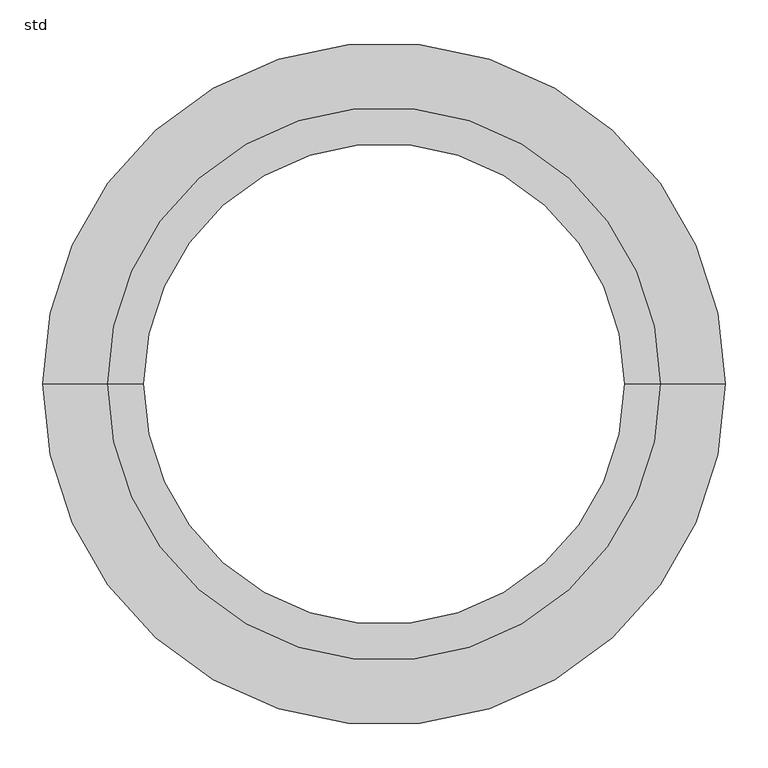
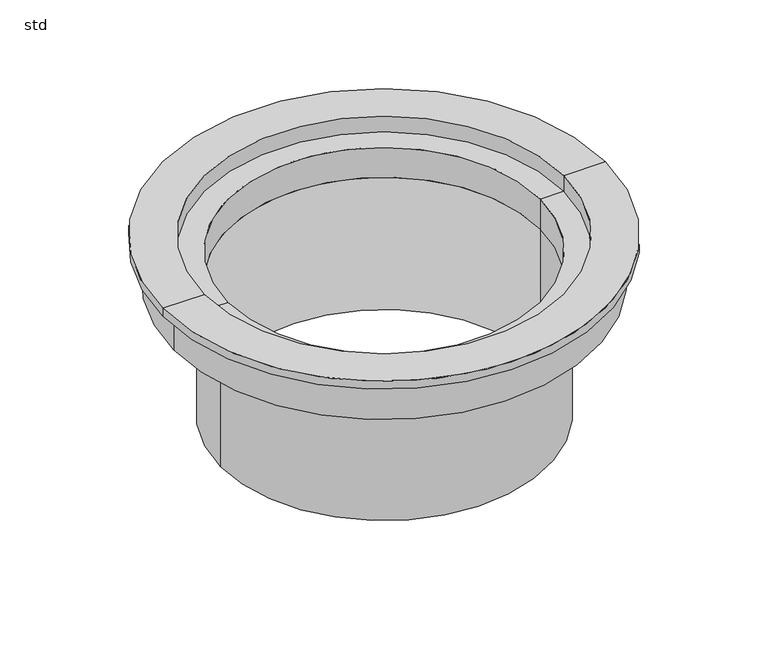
"""IFC4 building model written with IfcOpenShell, lengths in millimetres: pipe fitting geometry, Z_PIF_UN_Q-Bic_Plus_Telescopic_Frame_Wavin_(nested) : std."""

from ifc_helpers import new_model, si_unit, point, frame, origin, origin_with_axes, origin_2d, place, context, project, spatial, polyline, circle_curve, trimmed, segment, composite_curve, outline, extrude, source, transform, mapped, element, save
from ifc_brep_helpers import plane_surface, cylinder_surface, revolved_surface, advanced_brep


def std_4fffe7a8(model_context):
    return source(origin(), model_context, "Body", "SolidModel", [
        advanced_brep(
        [(-380.0, 0.0, -15.0), (380.0, 0.0, -15.0), (380.0, 0.0, -87.0), (-380.0, 0.0, -87.0), (-400.0, 0.0, -15.0), (400.0, 0.0, -15.0), (-400.0, 0.0, 0.0), (400.0, 0.0, 0.0), (-324.5, 0.0, 0.0), (324.5, 0.0, 0.0), (-324.5, 0.0, -30.0), (324.5, 0.0, -30.0), (-282.0, 0.0, -30.0), (282.0, 0.0, -30.0), (-282.0, 0.0, -87.0), (282.0, 0.0, -87.0)],
        [
            (0, 1, circle_curve(frame((0.0, 0.0, -15.0), z_axis=(0.0, 0.0, -1.0), x_axis=(1.0, 0.0, 0.0)), 380.0)),
            (1, 2),
            (2, 3, circle_curve(frame((0.0, 0.0, -87.0), z_axis=(0.0, 0.0, 1.0), x_axis=(1.0, 0.0, 0.0)), 380.0)),
            (3, 0),
            (1, 0, circle_curve(frame((0.0, 0.0, -15.0), z_axis=(0.0, 0.0, -1.0), x_axis=(1.0, 0.0, 0.0)), 380.0)),
            (3, 2, circle_curve(frame((0.0, 0.0, -87.0), z_axis=(0.0, 0.0, 1.0), x_axis=(1.0, 0.0, 0.0)), 380.0)),
            (4, 5, circle_curve(frame((0.0, 0.0, -15.0), z_axis=(0.0, 0.0, -1.0), x_axis=(1.0, 0.0, 0.0)), 400.0)),
            (5, 1),
            (0, 4),
            (5, 4, circle_curve(frame((0.0, 0.0, -15.0), z_axis=(0.0, 0.0, -1.0), x_axis=(1.0, 0.0, 0.0)), 400.0)),
            (6, 7, circle_curve(frame((0.0, 0.0, 0.0), z_axis=(0.0, 0.0, -1.0), x_axis=(1.0, 0.0, 0.0)), 400.0)),
            (7, 5),
            (4, 6),
            (7, 6, circle_curve(frame((0.0, 0.0, 0.0), z_axis=(0.0, 0.0, -1.0), x_axis=(1.0, 0.0, 0.0)), 400.0)),
            (8, 9, circle_curve(frame((0.0, 0.0, 0.0), z_axis=(0.0, 0.0, -1.0), x_axis=(1.0, 0.0, 0.0)), 324.5)),
            (9, 7),
            (6, 8),
            (9, 8, circle_curve(frame((0.0, 0.0, 0.0), z_axis=(0.0, 0.0, -1.0), x_axis=(1.0, 0.0, 0.0)), 324.5)),
            (10, 11, circle_curve(frame((0.0, 0.0, -30.0), z_axis=(0.0, 0.0, -1.0), x_axis=(1.0, 0.0, 0.0)), 324.5)),
            (11, 9),
            (8, 10),
            (11, 10, circle_curve(frame((0.0, 0.0, -30.0), z_axis=(0.0, 0.0, -1.0), x_axis=(1.0, 0.0, 0.0)), 324.5)),
            (12, 13, circle_curve(frame((0.0, 0.0, -30.0), z_axis=(0.0, 0.0, -1.0), x_axis=(1.0, 0.0, 0.0)), 282.0)),
            (13, 11),
            (10, 12),
            (13, 12, circle_curve(frame((0.0, 0.0, -30.0), z_axis=(0.0, 0.0, -1.0), x_axis=(1.0, 0.0, 0.0)), 282.0)),
            (14, 15, circle_curve(frame((0.0, 0.0, -87.0), z_axis=(0.0, 0.0, -1.0), x_axis=(1.0, 0.0, 0.0)), 282.0)),
            (15, 13),
            (12, 14),
            (15, 14, circle_curve(frame((0.0, 0.0, -87.0), z_axis=(0.0, 0.0, -1.0), x_axis=(1.0, 0.0, 0.0)), 282.0)),
            (2, 15),
            (14, 3),
        ],
        [
            cylinder_surface(frame((0.0, 0.0, -433.0), z_axis=(0.0, 0.0, 1.0), x_axis=(1.0, 0.0, 0.0)), 380.0),
            plane_surface(frame((0.0, 0.0, -15.0), z_axis=(0.0, 0.0, -1.0), x_axis=(1.0, 0.0, 0.0))),
            cylinder_surface(frame((0.0, 0.0, -433.0), z_axis=(0.0, 0.0, 1.0), x_axis=(1.0, 0.0, 0.0)), 400.0),
            plane_surface(origin_with_axes()),
            revolved_surface(polyline([(324.5, 0.0, 0.0), (324.5, 0.0, -30.0)]), (0.0, 0.0, -433.0), (0.0, 0.0, 1.0)),
            plane_surface(frame((0.0, 0.0, -30.0), z_axis=(0.0, 0.0, 1.0), x_axis=(1.0, 0.0, 0.0))),
            revolved_surface(polyline([(282.0, 0.0, -30.0), (282.0, 0.0, -87.0)]), (0.0, 0.0, -433.0), (0.0, 0.0, 1.0)),
            plane_surface(frame((0.0, 0.0, -87.0), z_axis=(0.0, 0.0, -1.0), x_axis=(1.0, 0.0, 0.0))),
        ],
        [
            (0, [[1, 2, 3, 4]]),
            (0, [[5, -4, 6, -2]]),
            (1, [[7, 8, -1, 9]]),
            (1, [[10, -9, -5, -8]]),
            (2, [[11, 12, -7, 13]]),
            (2, [[14, -13, -10, -12]]),
            (3, [[15, 16, -11, 17]]),
            (3, [[18, -17, -14, -16]]),
            (4, [[19, 20, -15, 21]]),
            (4, [[22, -21, -18, -20]]),
            (5, [[23, 24, -19, 25]]),
            (5, [[26, -25, -22, -24]]),
            (6, [[27, 28, -23, 29]]),
            (6, [[30, -29, -26, -28]]),
            (7, [[-3, 31, -27, 32]]),
            (7, [[-6, -32, -30, -31]]),
        ],
    ),
        extrude(outline(composite_curve([segment(trimmed(circle_curve(origin_2d(), 295.0), [point((-295.0, 0.0))], [point((295.0, 0.0))], False, "CARTESIAN"), True, "CONTINUOUS"), segment(trimmed(circle_curve(origin_2d(), 295.0), [point((295.0, 0.0))], [point((-295.0, 0.0))], False, "CARTESIAN"), True, "CONTINUOUS")], self_intersect=False), holes=[composite_curve([segment(trimmed(circle_curve(origin_2d(), 282.0), [point((-282.0, 0.0))], [point((282.0, 0.0))], True, "CARTESIAN"), True, "CONTINUOUS"), segment(trimmed(circle_curve(origin_2d(), 282.0), [point((282.0, 0.0))], [point((-282.0, 0.0))], True, "CARTESIAN"), True, "CONTINUOUS")], self_intersect=False)]), frame((0.0, 0.0, -340.0), z_axis=(0.0, 0.0, 1.0), x_axis=(1.0, 0.0, 0.0)), (0.0, 0.0, 1.0), 253.0),
    ])


if __name__ == "__main__":
    model = new_model("IFC4")
    model_context = context("Model", 3, world=origin())
    ifc_project = project(units=[si_unit("LENGTHUNIT", "METRE", prefix="MILLI")], contexts=[model_context])
    site = spatial("IfcSite", under=ifc_project)
    building = spatial("IfcBuilding", under=site)
    placement = place(None, origin())
    std_shape = std_4fffe7a8(model_context)
    element("IfcPipeFitting", 1, ObjectType="Z_PIF_UN_Q-Bic_Plus_Telescopic_Frame_Wavin_(nested) : std", at=placement, inside=building, context=model_context, shape_type="MappedRepresentation", body=[
        mapped(std_shape, transform((0.0, 0.0, 0.0), x_axis=(1.0, 0.0, 0.0), y_axis=(0.0, 1.0, 0.0), z_axis=(0.0, 0.0, 1.0))),
    ])
    save(model, "model.ifc")
